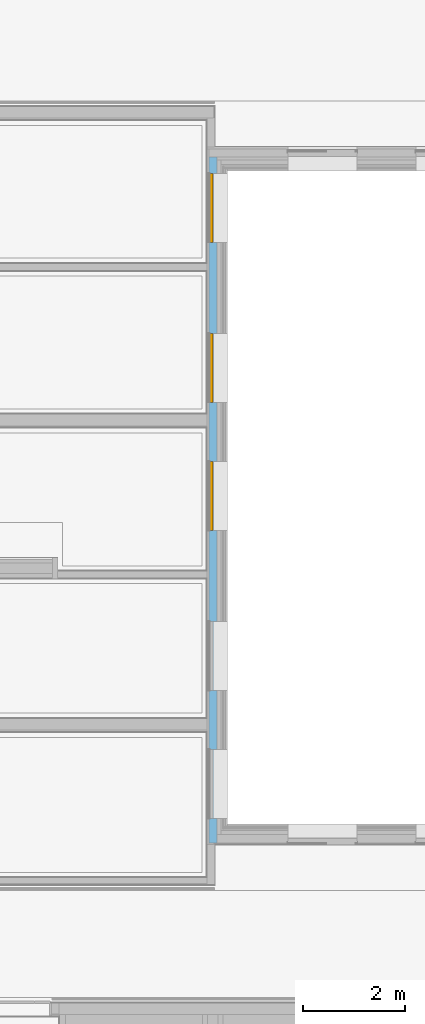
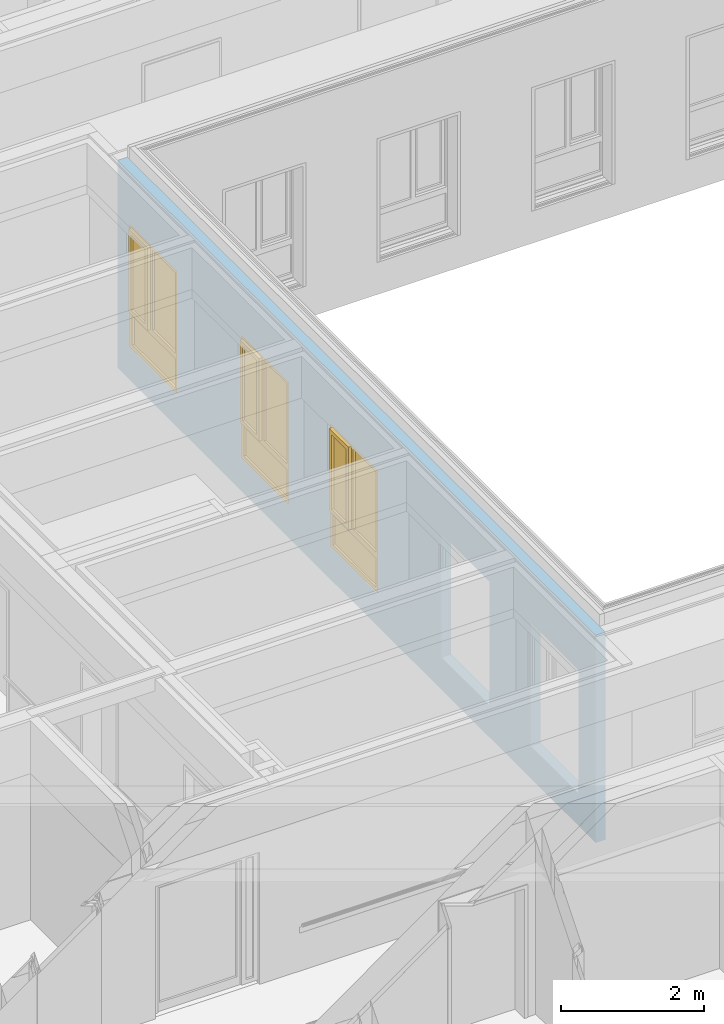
# One storey, part 69 of 222: 3 windows, 5 openings, plus 1 element that does not belong to this part.
"""IFC4 building model written with IfcOpenShell, lengths in metres."""

from ifc_helpers import new_model, entity, si_unit, converted_unit, derived_unit, frame, frame_2d, origin, origin_with_axes, place, context, subcontext, project, spatial, polyline, rectangle, outline, extrude, closed_shell, open_shell, surface_model, source, transform, mapped, material, element, fill, save


model = new_model("IFC4")

# Units and contexts
model_context = context("Model", 3, precision=1e-05, world=origin())
body_context = subcontext(model_context, "Body", "Model", "MODEL_VIEW")
ifc_project = project(units=[si_unit("LENGTHUNIT", "METRE"), si_unit("AREAUNIT", "SQUARE_METRE"), si_unit("VOLUMEUNIT", "CUBIC_METRE"), si_unit("MASSUNIT", "GRAM", prefix="KILO"), converted_unit("PLANEANGLEUNIT", "DEGREE", entity("IfcPlaneAngleMeasure", 0.0174532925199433), si_unit("PLANEANGLEUNIT", "RADIAN"), dimensions=[0, 0, 0, 0, 0, 0, 0]), derived_unit("THERMALTRANSMITTANCEUNIT", [(si_unit("POWERUNIT", "WATT"), 1), (si_unit("THERMODYNAMICTEMPERATUREUNIT", "KELVIN"), -1), (si_unit("LENGTHUNIT", "METRE"), -2)]), derived_unit("VOLUMETRICFLOWRATEUNIT", [(si_unit("LENGTHUNIT", "METRE"), 3), (converted_unit("TIMEUNIT", "hour", entity("IfcTimeMeasure", 3600.0), si_unit("TIMEUNIT", "SECOND"), dimensions=[0, 0, 1, 0, 0, 0, 0]), -1), (si_unit("LENGTHUNIT", "METRE"), -1)])], contexts=[model_context])

# Site, building, storey
site_placement = place(None, origin())
site = spatial("IfcSite", under=ifc_project, at=site_placement, Name="Psychiatrie Neubau Wunstorf", CompositionType="ELEMENT")
building_placement = place(site_placement, origin())
building = spatial("IfcBuilding", under=site, at=building_placement, Name="Neubau H2 Stationsgebäude", CompositionType="ELEMENT")
storey_placement = place(building_placement, frame((0.0, 0.0, 3.6)))
storey = spatial("IfcBuildingStorey", under=building, at=storey_placement, Name="H2 Ebene +1", CompositionType="ELEMENT", Elevation=3.6)

# Wall, openings, windows
ifc_material = material(Name="WA-DL")
wall_placement = place(storey_placement, frame((15.675, 20.8416528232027, 0.0), z_axis=(0.0, 0.0, 1.0), x_axis=(-2.71660179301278e-16, -1.0, 0.0)))
wall = element("IfcWall", 1, at=wall_placement, inside=storey, material=ifc_material, context=body_context, shape_type="SweptSolid", body=[
    extrude(rectangle(XDim=13.3916528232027, YDim=0.16, at=frame_2d((6.69582641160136, 0.08), x_axis=(1.0, 0.0))), origin_with_axes(), (0.0, 0.0, 1.0), 3.55),
])
opening_1_placement = place(wall_placement, frame((4.79165282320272, 0.159999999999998, 0.55), z_axis=(0.0, -1.0, 0.0), x_axis=(0.0, 0.0, 1.0)))
opening_1 = element("IfcOpeningElement", 2, at=opening_1_placement, cuts=wall, Name="Fensteröffnung", ObjectType="Opening", context=body_context, shape_type="SweptSolid", body=[
    extrude(outline(polyline([(2.115, 1.35), (2.115, 0.0), (0.0, 0.0), (0.0, 1.35), (2.115, 1.35)])), origin_with_axes(), (0.0, 0.0, 1.0), 0.16),
])
opening_2_placement = place(wall_placement, frame((7.29165282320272, 0.16, 0.55), z_axis=(0.0, -1.0, 0.0), x_axis=(0.0, 0.0, 1.0)))
opening_2 = element("IfcOpeningElement", 3, at=opening_2_placement, cuts=wall, Name="Fensteröffnung", ObjectType="Opening", context=body_context, shape_type="SweptSolid", body=[
    extrude(outline(polyline([(2.115, 1.35), (2.115, 0.0), (0.0, 0.0), (0.0, 1.35), (2.115, 1.35)])), origin_with_axes(), (0.0, 0.0, 1.0), 0.16),
])
opening_3_placement = place(wall_placement, frame((1.66665282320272, 0.159999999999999, 0.55), z_axis=(0.0, -1.0, 0.0), x_axis=(0.0, 0.0, 1.0)))
opening_3 = element("IfcOpeningElement", 4, at=opening_3_placement, cuts=wall, Name="Fensteröffnung", ObjectType="Opening", context=body_context, shape_type="SweptSolid", body=[
    extrude(outline(polyline([(2.115, 1.35), (2.115, 0.0), (0.0, 0.0), (0.0, 1.35), (2.115, 1.35)])), origin_with_axes(), (0.0, 0.0, 1.0), 0.16),
])
opening_4_placement = place(wall_placement, frame((12.9166528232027, 0.16, 0.55), z_axis=(0.0, -1.0, 0.0), x_axis=(0.0, 0.0, 1.0)))
element("IfcOpeningElement", 5, at=opening_4_placement, cuts=wall, Name="Fensteröffnung", ObjectType="Opening", context=body_context, shape_type="SweptSolid", body=[
    extrude(outline(polyline([(2.115, 1.35), (2.115, 0.0), (0.0, 0.0), (0.0, 1.35), (2.115, 1.35)])), origin_with_axes(), (0.0, 0.0, 1.0), 0.16),
])
opening_5_placement = place(wall_placement, frame((10.4166528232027, 0.160000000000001, 0.55), z_axis=(0.0, -1.0, 0.0), x_axis=(0.0, 0.0, 1.0)))
element("IfcOpeningElement", 6, at=opening_5_placement, cuts=wall, Name="Fensteröffnung", ObjectType="Opening", context=body_context, shape_type="SweptSolid", body=[
    extrude(outline(polyline([(2.115, 1.35), (2.115, 0.0), (0.0, 0.0), (0.0, 1.35), (2.115, 1.35)])), origin_with_axes(), (0.0, 0.0, 1.0), 0.16),
])
shared_shape_1 = source(origin_with_axes(), body_context, "Body", "SurfaceModel", [
    surface_model("IfcShellBasedSurfaceModel", [(0.0, 0.0, 2.115), (0.0700000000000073, 0.0, 2.115), (0.0700000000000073, 0.0, 0.0), (0.0, 0.0, 0.0), (0.0, 0.0699999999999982, 0.0), (0.0700000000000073, 0.0699999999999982, 0.0), (0.0700000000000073, 0.0699999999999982, 2.115), (0.0, 0.0699999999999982, 2.115)], [closed_shell([[[0, 1, 2, 3]], [[4, 5, 6, 7]], [[3, 4, 7, 0]], [[2, 5, 4, 3]], [[1, 6, 5, 2]], [[0, 7, 6, 1]]], orient=[[False], [False], [False], [False], [False], [False]])]),
    surface_model("IfcShellBasedSurfaceModel", [(1.28000000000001, 0.0, 2.115), (1.35000000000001, 0.0, 2.115), (1.35000000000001, 0.0, 0.0), (1.28000000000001, 0.0, 0.0), (1.28000000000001, 0.0699999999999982, 0.0), (1.35000000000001, 0.0699999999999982, 0.0), (1.35000000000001, 0.0699999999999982, 2.115), (1.28000000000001, 0.0699999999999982, 2.115)], [closed_shell([[[0, 1, 2, 3]], [[4, 5, 6, 7]], [[3, 4, 7, 0]], [[2, 5, 4, 3]], [[1, 6, 5, 2]], [[0, 7, 6, 1]]], orient=[[False], [False], [False], [False], [False], [False]])]),
    surface_model("IfcShellBasedSurfaceModel", [(0.0700000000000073, 0.0, 0.07), (1.28000000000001, 0.0, 0.07), (1.28000000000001, 0.0, 0.0), (0.0700000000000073, 0.0, 0.0), (0.0700000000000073, 0.0699999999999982, 0.0), (1.28000000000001, 0.0699999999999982, 0.0), (1.28000000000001, 0.0699999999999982, 0.07), (0.0700000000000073, 0.0699999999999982, 0.07)], [closed_shell([[[0, 1, 2, 3]], [[4, 5, 6, 7]], [[3, 4, 7, 0]], [[2, 5, 4, 3]], [[1, 6, 5, 2]], [[0, 7, 6, 1]]], orient=[[False], [False], [False], [False], [False], [False]])]),
    surface_model("IfcShellBasedSurfaceModel", [(0.0700000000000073, 0.0, 2.115), (1.28000000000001, 0.0, 2.115), (1.28000000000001, 0.0, 2.045), (0.0700000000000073, 0.0, 2.045), (0.0700000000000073, 0.0699999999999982, 2.045), (1.28000000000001, 0.0699999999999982, 2.045), (1.28000000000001, 0.0699999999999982, 2.115), (0.0700000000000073, 0.0699999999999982, 2.115)], [closed_shell([[[0, 1, 2, 3]], [[4, 5, 6, 7]], [[3, 4, 7, 0]], [[2, 5, 4, 3]], [[1, 6, 5, 2]], [[0, 7, 6, 1]]], orient=[[False], [False], [False], [False], [False], [False]])]),
    surface_model("IfcShellBasedSurfaceModel", [(0.0700000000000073, 0.0, 0.67), (1.28000000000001, 0.0, 0.67), (1.28000000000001, 0.0, 0.57), (0.0700000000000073, 0.0, 0.57), (0.0700000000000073, 0.0699999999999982, 0.57), (1.28000000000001, 0.0699999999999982, 0.57), (1.28000000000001, 0.0699999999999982, 0.67), (0.0700000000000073, 0.0699999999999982, 0.67)], [closed_shell([[[0, 1, 2, 3]], [[4, 5, 6, 7]], [[3, 4, 7, 0]], [[2, 5, 4, 3]], [[1, 6, 5, 2]], [[0, 7, 6, 1]]], orient=[[False], [False], [False], [False], [False], [False]])]),
    surface_model("IfcShellBasedSurfaceModel", [(0.0700000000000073, 0.0349999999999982, 0.07), (0.0700000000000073, 0.0349999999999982, 0.57), (1.28000000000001, 0.0349999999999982, 0.57), (1.28000000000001, 0.0349999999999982, 0.07)], [open_shell([[[0, 1, 2, 3]]], orient=[[False]])]),
    surface_model("IfcShellBasedSurfaceModel", [(0.565700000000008, 0.0, 2.045), (0.635700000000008, 0.0, 2.045), (0.635700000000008, 0.0, 0.67), (0.565700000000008, 0.0, 0.67), (0.565700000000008, 0.0699999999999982, 0.67), (0.635700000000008, 0.0699999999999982, 0.67), (0.635700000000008, 0.0699999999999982, 2.045), (0.565700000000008, 0.0699999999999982, 2.045)], [closed_shell([[[0, 1, 2, 3]], [[4, 5, 6, 7]], [[3, 4, 7, 0]], [[2, 5, 4, 3]], [[1, 6, 5, 2]], [[0, 7, 6, 1]]], orient=[[False], [False], [False], [False], [False], [False]])]),
    surface_model("IfcShellBasedSurfaceModel", [(0.0500000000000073, -0.0500000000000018, 2.065), (0.120000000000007, -0.0500000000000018, 2.065), (0.120000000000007, -0.0500000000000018, 0.65), (0.0500000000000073, -0.0500000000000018, 0.65), (0.0500000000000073, 0.0199999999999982, 0.65), (0.120000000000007, 0.0199999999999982, 0.65), (0.120000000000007, 0.0199999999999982, 2.065), (0.0500000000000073, 0.0199999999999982, 2.065)], [closed_shell([[[0, 1, 2, 3]], [[4, 5, 6, 7]], [[3, 4, 7, 0]], [[2, 5, 4, 3]], [[1, 6, 5, 2]], [[0, 7, 6, 1]]], orient=[[False], [False], [False], [False], [False], [False]])]),
    surface_model("IfcShellBasedSurfaceModel", [(0.515700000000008, -0.0500000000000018, 2.065), (0.585700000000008, -0.0500000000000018, 2.065), (0.585700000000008, -0.0500000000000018, 0.65), (0.515700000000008, -0.0500000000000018, 0.65), (0.515700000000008, 0.0199999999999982, 0.65), (0.585700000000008, 0.0199999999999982, 0.65), (0.585700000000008, 0.0199999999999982, 2.065), (0.515700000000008, 0.0199999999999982, 2.065)], [closed_shell([[[0, 1, 2, 3]], [[4, 5, 6, 7]], [[3, 4, 7, 0]], [[2, 5, 4, 3]], [[1, 6, 5, 2]], [[0, 7, 6, 1]]], orient=[[False], [False], [False], [False], [False], [False]])]),
    surface_model("IfcShellBasedSurfaceModel", [(0.120000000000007, -0.0500000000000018, 0.72), (0.515700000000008, -0.0500000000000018, 0.72), (0.515700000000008, -0.0500000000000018, 0.65), (0.120000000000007, -0.0500000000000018, 0.65), (0.120000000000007, 0.0199999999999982, 0.65), (0.515700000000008, 0.0199999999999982, 0.65), (0.515700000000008, 0.0199999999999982, 0.72), (0.120000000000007, 0.0199999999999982, 0.72)], [closed_shell([[[0, 1, 2, 3]], [[4, 5, 6, 7]], [[3, 4, 7, 0]], [[2, 5, 4, 3]], [[1, 6, 5, 2]], [[0, 7, 6, 1]]], orient=[[False], [False], [False], [False], [False], [False]])]),
    surface_model("IfcShellBasedSurfaceModel", [(0.120000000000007, -0.0500000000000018, 2.065), (0.515700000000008, -0.0500000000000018, 2.065), (0.515700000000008, -0.0500000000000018, 1.995), (0.120000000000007, -0.0500000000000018, 1.995), (0.120000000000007, 0.0199999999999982, 1.995), (0.515700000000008, 0.0199999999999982, 1.995), (0.515700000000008, 0.0199999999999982, 2.065), (0.120000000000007, 0.0199999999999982, 2.065)], [closed_shell([[[0, 1, 2, 3]], [[4, 5, 6, 7]], [[3, 4, 7, 0]], [[2, 5, 4, 3]], [[1, 6, 5, 2]], [[0, 7, 6, 1]]], orient=[[False], [False], [False], [False], [False], [False]])]),
    surface_model("IfcShellBasedSurfaceModel", [(0.635700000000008, 0.0349999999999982, 0.67), (0.635700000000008, 0.0349999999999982, 2.045), (1.28000000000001, 0.0349999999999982, 2.045), (1.28000000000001, 0.0349999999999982, 0.67)], [open_shell([[[0, 1, 2, 3]]], orient=[[False]])]),
    surface_model("IfcShellBasedSurfaceModel", [(0.120000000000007, -0.0150000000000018, 0.72), (0.120000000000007, -0.0150000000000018, 1.995), (0.515700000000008, -0.0150000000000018, 1.995), (0.515700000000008, -0.0150000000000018, 0.72)], [open_shell([[[0, 1, 2, 3]]], orient=[[False]])]),
])
window_1_placement = place(opening_1_placement, frame((0.0, 1.35, 0.146000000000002), z_axis=(1.0, 0.0, 0.0), x_axis=(0.0, -1.0, -2.71660179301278e-16)))
window_1 = element("IfcWindow", 7, at=window_1_placement, inside=storey, Name="Fenster", OverallHeight=2.115, OverallWidth=1.35, PartitioningType="USERDEFINED", PredefinedType="WINDOW", context=body_context, shape_type="MappedRepresentation", body=[
    mapped(shared_shape_1, transform((0.0, 0.0, 0.0), x_axis=(1.0, 0.0, 0.0), y_axis=(0.0, 1.0, 0.0), z_axis=(0.0, 0.0, 1.0), scale=1.0)),
])
fill(opening_1, window_1)
shared_shape_2 = source(origin_with_axes(), body_context, "Body", "SurfaceModel", [
    surface_model("IfcShellBasedSurfaceModel", [(0.0, 0.0, 2.115), (0.0700000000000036, 0.0, 2.115), (0.0700000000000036, 0.0, 0.0), (0.0, 0.0, 0.0), (0.0, 0.0699999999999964, 0.0), (0.0700000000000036, 0.0699999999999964, 0.0), (0.0700000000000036, 0.0699999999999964, 2.115), (0.0, 0.0699999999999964, 2.115)], [closed_shell([[[0, 1, 2, 3]], [[4, 5, 6, 7]], [[3, 4, 7, 0]], [[2, 5, 4, 3]], [[1, 6, 5, 2]], [[0, 7, 6, 1]]], orient=[[False], [False], [False], [False], [False], [False]])]),
    surface_model("IfcShellBasedSurfaceModel", [(1.28, 0.0, 2.115), (1.35, 0.0, 2.115), (1.35, 0.0, 0.0), (1.28, 0.0, 0.0), (1.28, 0.0699999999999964, 0.0), (1.35, 0.0699999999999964, 0.0), (1.35, 0.0699999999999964, 2.115), (1.28, 0.0699999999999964, 2.115)], [closed_shell([[[0, 1, 2, 3]], [[4, 5, 6, 7]], [[3, 4, 7, 0]], [[2, 5, 4, 3]], [[1, 6, 5, 2]], [[0, 7, 6, 1]]], orient=[[False], [False], [False], [False], [False], [False]])]),
    surface_model("IfcShellBasedSurfaceModel", [(0.0700000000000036, 0.0, 0.07), (1.28, 0.0, 0.07), (1.28, 0.0, 0.0), (0.0700000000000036, 0.0, 0.0), (0.0700000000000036, 0.0699999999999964, 0.0), (1.28, 0.0699999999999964, 0.0), (1.28, 0.0699999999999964, 0.07), (0.0700000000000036, 0.0699999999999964, 0.07)], [closed_shell([[[0, 1, 2, 3]], [[4, 5, 6, 7]], [[3, 4, 7, 0]], [[2, 5, 4, 3]], [[1, 6, 5, 2]], [[0, 7, 6, 1]]], orient=[[False], [False], [False], [False], [False], [False]])]),
    surface_model("IfcShellBasedSurfaceModel", [(0.0700000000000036, 0.0, 2.115), (1.28, 0.0, 2.115), (1.28, 0.0, 2.045), (0.0700000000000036, 0.0, 2.045), (0.0700000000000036, 0.0699999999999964, 2.045), (1.28, 0.0699999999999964, 2.045), (1.28, 0.0699999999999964, 2.115), (0.0700000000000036, 0.0699999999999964, 2.115)], [closed_shell([[[0, 1, 2, 3]], [[4, 5, 6, 7]], [[3, 4, 7, 0]], [[2, 5, 4, 3]], [[1, 6, 5, 2]], [[0, 7, 6, 1]]], orient=[[False], [False], [False], [False], [False], [False]])]),
    surface_model("IfcShellBasedSurfaceModel", [(0.0700000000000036, 0.0, 0.67), (1.28, 0.0, 0.67), (1.28, 0.0, 0.57), (0.0700000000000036, 0.0, 0.57), (0.0700000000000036, 0.0699999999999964, 0.57), (1.28, 0.0699999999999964, 0.57), (1.28, 0.0699999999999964, 0.67), (0.0700000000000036, 0.0699999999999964, 0.67)], [closed_shell([[[0, 1, 2, 3]], [[4, 5, 6, 7]], [[3, 4, 7, 0]], [[2, 5, 4, 3]], [[1, 6, 5, 2]], [[0, 7, 6, 1]]], orient=[[False], [False], [False], [False], [False], [False]])]),
    surface_model("IfcShellBasedSurfaceModel", [(0.0700000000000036, 0.0349999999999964, 0.07), (0.0700000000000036, 0.0349999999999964, 0.57), (1.28, 0.0349999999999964, 0.57), (1.28, 0.0349999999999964, 0.07)], [open_shell([[[0, 1, 2, 3]]], orient=[[False]])]),
    surface_model("IfcShellBasedSurfaceModel", [(0.565700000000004, 0.0, 2.045), (0.635700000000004, 0.0, 2.045), (0.635700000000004, 0.0, 0.67), (0.565700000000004, 0.0, 0.67), (0.565700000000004, 0.0699999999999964, 0.67), (0.635700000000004, 0.0699999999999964, 0.67), (0.635700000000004, 0.0699999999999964, 2.045), (0.565700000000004, 0.0699999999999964, 2.045)], [closed_shell([[[0, 1, 2, 3]], [[4, 5, 6, 7]], [[3, 4, 7, 0]], [[2, 5, 4, 3]], [[1, 6, 5, 2]], [[0, 7, 6, 1]]], orient=[[False], [False], [False], [False], [False], [False]])]),
    surface_model("IfcShellBasedSurfaceModel", [(0.0500000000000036, -0.0500000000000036, 2.065), (0.120000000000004, -0.0500000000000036, 2.065), (0.120000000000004, -0.0500000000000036, 0.65), (0.0500000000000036, -0.0500000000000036, 0.65), (0.0500000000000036, 0.0199999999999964, 0.65), (0.120000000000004, 0.0199999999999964, 0.65), (0.120000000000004, 0.0199999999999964, 2.065), (0.0500000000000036, 0.0199999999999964, 2.065)], [closed_shell([[[0, 1, 2, 3]], [[4, 5, 6, 7]], [[3, 4, 7, 0]], [[2, 5, 4, 3]], [[1, 6, 5, 2]], [[0, 7, 6, 1]]], orient=[[False], [False], [False], [False], [False], [False]])]),
    surface_model("IfcShellBasedSurfaceModel", [(0.515700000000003, -0.0500000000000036, 2.065), (0.585700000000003, -0.0500000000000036, 2.065), (0.585700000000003, -0.0500000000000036, 0.65), (0.515700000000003, -0.0500000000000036, 0.65), (0.515700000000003, 0.0199999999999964, 0.65), (0.585700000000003, 0.0199999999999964, 0.65), (0.585700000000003, 0.0199999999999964, 2.065), (0.515700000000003, 0.0199999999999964, 2.065)], [closed_shell([[[0, 1, 2, 3]], [[4, 5, 6, 7]], [[3, 4, 7, 0]], [[2, 5, 4, 3]], [[1, 6, 5, 2]], [[0, 7, 6, 1]]], orient=[[False], [False], [False], [False], [False], [False]])]),
    surface_model("IfcShellBasedSurfaceModel", [(0.120000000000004, -0.0500000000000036, 0.72), (0.515700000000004, -0.0500000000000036, 0.72), (0.515700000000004, -0.0500000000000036, 0.65), (0.120000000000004, -0.0500000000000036, 0.65), (0.120000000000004, 0.0199999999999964, 0.65), (0.515700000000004, 0.0199999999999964, 0.65), (0.515700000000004, 0.0199999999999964, 0.72), (0.120000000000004, 0.0199999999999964, 0.72)], [closed_shell([[[0, 1, 2, 3]], [[4, 5, 6, 7]], [[3, 4, 7, 0]], [[2, 5, 4, 3]], [[1, 6, 5, 2]], [[0, 7, 6, 1]]], orient=[[False], [False], [False], [False], [False], [False]])]),
    surface_model("IfcShellBasedSurfaceModel", [(0.120000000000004, -0.0500000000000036, 2.065), (0.515700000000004, -0.0500000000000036, 2.065), (0.515700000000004, -0.0500000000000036, 1.995), (0.120000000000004, -0.0500000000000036, 1.995), (0.120000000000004, 0.0199999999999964, 1.995), (0.515700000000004, 0.0199999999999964, 1.995), (0.515700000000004, 0.0199999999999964, 2.065), (0.120000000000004, 0.0199999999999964, 2.065)], [closed_shell([[[0, 1, 2, 3]], [[4, 5, 6, 7]], [[3, 4, 7, 0]], [[2, 5, 4, 3]], [[1, 6, 5, 2]], [[0, 7, 6, 1]]], orient=[[False], [False], [False], [False], [False], [False]])]),
    surface_model("IfcShellBasedSurfaceModel", [(0.635700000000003, 0.0349999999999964, 0.67), (0.635700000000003, 0.0349999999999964, 2.045), (1.28, 0.0349999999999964, 2.045), (1.28, 0.0349999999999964, 0.67)], [open_shell([[[0, 1, 2, 3]]], orient=[[False]])]),
    surface_model("IfcShellBasedSurfaceModel", [(0.120000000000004, -0.0150000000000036, 0.72), (0.120000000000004, -0.0150000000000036, 1.995), (0.515700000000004, -0.0150000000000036, 1.995), (0.515700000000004, -0.0150000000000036, 0.72)], [open_shell([[[0, 1, 2, 3]]], orient=[[False]])]),
])
window_2_placement = place(opening_2_placement, frame((0.0, 1.35, 0.146), z_axis=(1.0, 0.0, 0.0), x_axis=(0.0, -1.0, -2.71660179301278e-16)))
window_2 = element("IfcWindow", 8, at=window_2_placement, inside=storey, Name="Fenster", OverallHeight=2.115, OverallWidth=1.35, PartitioningType="USERDEFINED", PredefinedType="WINDOW", context=body_context, shape_type="MappedRepresentation", body=[
    mapped(shared_shape_2, transform((0.0, 0.0, 0.0), x_axis=(1.0, 0.0, 0.0), y_axis=(0.0, 1.0, 0.0), z_axis=(0.0, 0.0, 1.0), scale=1.0)),
])
fill(opening_2, window_2)
shared_shape_3 = source(origin_with_axes(), body_context, "Body", "SurfaceModel", [
    surface_model("IfcShellBasedSurfaceModel", [(0.0, 0.0, 2.115), (0.0700000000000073, 0.0, 2.115), (0.0700000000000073, 0.0, 0.0), (0.0, 0.0, 0.0), (0.0, 0.0699999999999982, 0.0), (0.0700000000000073, 0.0699999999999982, 0.0), (0.0700000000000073, 0.0699999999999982, 2.115), (0.0, 0.0699999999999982, 2.115)], [closed_shell([[[0, 1, 2, 3]], [[4, 5, 6, 7]], [[3, 4, 7, 0]], [[2, 5, 4, 3]], [[1, 6, 5, 2]], [[0, 7, 6, 1]]], orient=[[False], [False], [False], [False], [False], [False]])]),
    surface_model("IfcShellBasedSurfaceModel", [(1.28000000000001, 0.0, 2.115), (1.35000000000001, 0.0, 2.115), (1.35000000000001, 0.0, 0.0), (1.28000000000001, 0.0, 0.0), (1.28000000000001, 0.0699999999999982, 0.0), (1.35000000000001, 0.0699999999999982, 0.0), (1.35000000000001, 0.0699999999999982, 2.115), (1.28000000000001, 0.0699999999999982, 2.115)], [closed_shell([[[0, 1, 2, 3]], [[4, 5, 6, 7]], [[3, 4, 7, 0]], [[2, 5, 4, 3]], [[1, 6, 5, 2]], [[0, 7, 6, 1]]], orient=[[False], [False], [False], [False], [False], [False]])]),
    surface_model("IfcShellBasedSurfaceModel", [(0.0700000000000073, 0.0, 0.07), (1.28000000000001, 0.0, 0.07), (1.28000000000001, 0.0, 0.0), (0.0700000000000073, 0.0, 0.0), (0.0700000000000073, 0.0699999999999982, 0.0), (1.28000000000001, 0.0699999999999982, 0.0), (1.28000000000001, 0.0699999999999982, 0.07), (0.0700000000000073, 0.0699999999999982, 0.07)], [closed_shell([[[0, 1, 2, 3]], [[4, 5, 6, 7]], [[3, 4, 7, 0]], [[2, 5, 4, 3]], [[1, 6, 5, 2]], [[0, 7, 6, 1]]], orient=[[False], [False], [False], [False], [False], [False]])]),
    surface_model("IfcShellBasedSurfaceModel", [(0.0700000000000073, 0.0, 2.115), (1.28000000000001, 0.0, 2.115), (1.28000000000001, 0.0, 2.045), (0.0700000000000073, 0.0, 2.045), (0.0700000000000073, 0.0699999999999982, 2.045), (1.28000000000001, 0.0699999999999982, 2.045), (1.28000000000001, 0.0699999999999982, 2.115), (0.0700000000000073, 0.0699999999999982, 2.115)], [closed_shell([[[0, 1, 2, 3]], [[4, 5, 6, 7]], [[3, 4, 7, 0]], [[2, 5, 4, 3]], [[1, 6, 5, 2]], [[0, 7, 6, 1]]], orient=[[False], [False], [False], [False], [False], [False]])]),
    surface_model("IfcShellBasedSurfaceModel", [(0.0700000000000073, 0.0, 0.67), (1.28000000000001, 0.0, 0.67), (1.28000000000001, 0.0, 0.57), (0.0700000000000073, 0.0, 0.57), (0.0700000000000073, 0.0699999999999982, 0.57), (1.28000000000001, 0.0699999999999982, 0.57), (1.28000000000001, 0.0699999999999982, 0.67), (0.0700000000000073, 0.0699999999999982, 0.67)], [closed_shell([[[0, 1, 2, 3]], [[4, 5, 6, 7]], [[3, 4, 7, 0]], [[2, 5, 4, 3]], [[1, 6, 5, 2]], [[0, 7, 6, 1]]], orient=[[False], [False], [False], [False], [False], [False]])]),
    surface_model("IfcShellBasedSurfaceModel", [(0.0700000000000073, 0.0349999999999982, 0.07), (0.0700000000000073, 0.0349999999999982, 0.57), (1.28000000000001, 0.0349999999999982, 0.57), (1.28000000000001, 0.0349999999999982, 0.07)], [open_shell([[[0, 1, 2, 3]]], orient=[[False]])]),
    surface_model("IfcShellBasedSurfaceModel", [(0.565700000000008, 0.0, 2.045), (0.635700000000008, 0.0, 2.045), (0.635700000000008, 0.0, 0.67), (0.565700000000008, 0.0, 0.67), (0.565700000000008, 0.0699999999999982, 0.67), (0.635700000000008, 0.0699999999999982, 0.67), (0.635700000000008, 0.0699999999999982, 2.045), (0.565700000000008, 0.0699999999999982, 2.045)], [closed_shell([[[0, 1, 2, 3]], [[4, 5, 6, 7]], [[3, 4, 7, 0]], [[2, 5, 4, 3]], [[1, 6, 5, 2]], [[0, 7, 6, 1]]], orient=[[False], [False], [False], [False], [False], [False]])]),
    surface_model("IfcShellBasedSurfaceModel", [(0.0500000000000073, -0.0500000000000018, 2.065), (0.120000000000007, -0.0500000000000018, 2.065), (0.120000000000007, -0.0500000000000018, 0.65), (0.0500000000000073, -0.0500000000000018, 0.65), (0.0500000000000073, 0.0199999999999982, 0.65), (0.120000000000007, 0.0199999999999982, 0.65), (0.120000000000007, 0.0199999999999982, 2.065), (0.0500000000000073, 0.0199999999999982, 2.065)], [closed_shell([[[0, 1, 2, 3]], [[4, 5, 6, 7]], [[3, 4, 7, 0]], [[2, 5, 4, 3]], [[1, 6, 5, 2]], [[0, 7, 6, 1]]], orient=[[False], [False], [False], [False], [False], [False]])]),
    surface_model("IfcShellBasedSurfaceModel", [(0.515700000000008, -0.0500000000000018, 2.065), (0.585700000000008, -0.0500000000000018, 2.065), (0.585700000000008, -0.0500000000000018, 0.65), (0.515700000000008, -0.0500000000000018, 0.65), (0.515700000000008, 0.0199999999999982, 0.65), (0.585700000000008, 0.0199999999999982, 0.65), (0.585700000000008, 0.0199999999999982, 2.065), (0.515700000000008, 0.0199999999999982, 2.065)], [closed_shell([[[0, 1, 2, 3]], [[4, 5, 6, 7]], [[3, 4, 7, 0]], [[2, 5, 4, 3]], [[1, 6, 5, 2]], [[0, 7, 6, 1]]], orient=[[False], [False], [False], [False], [False], [False]])]),
    surface_model("IfcShellBasedSurfaceModel", [(0.120000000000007, -0.0500000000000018, 0.72), (0.515700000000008, -0.0500000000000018, 0.72), (0.515700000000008, -0.0500000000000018, 0.65), (0.120000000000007, -0.0500000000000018, 0.65), (0.120000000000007, 0.0199999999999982, 0.65), (0.515700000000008, 0.0199999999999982, 0.65), (0.515700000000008, 0.0199999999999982, 0.72), (0.120000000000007, 0.0199999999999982, 0.72)], [closed_shell([[[0, 1, 2, 3]], [[4, 5, 6, 7]], [[3, 4, 7, 0]], [[2, 5, 4, 3]], [[1, 6, 5, 2]], [[0, 7, 6, 1]]], orient=[[False], [False], [False], [False], [False], [False]])]),
    surface_model("IfcShellBasedSurfaceModel", [(0.120000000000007, -0.0500000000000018, 2.065), (0.515700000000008, -0.0500000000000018, 2.065), (0.515700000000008, -0.0500000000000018, 1.995), (0.120000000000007, -0.0500000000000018, 1.995), (0.120000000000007, 0.0199999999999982, 1.995), (0.515700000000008, 0.0199999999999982, 1.995), (0.515700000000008, 0.0199999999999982, 2.065), (0.120000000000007, 0.0199999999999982, 2.065)], [closed_shell([[[0, 1, 2, 3]], [[4, 5, 6, 7]], [[3, 4, 7, 0]], [[2, 5, 4, 3]], [[1, 6, 5, 2]], [[0, 7, 6, 1]]], orient=[[False], [False], [False], [False], [False], [False]])]),
    surface_model("IfcShellBasedSurfaceModel", [(0.635700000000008, 0.0349999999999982, 0.67), (0.635700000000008, 0.0349999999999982, 2.045), (1.28000000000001, 0.0349999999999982, 2.045), (1.28000000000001, 0.0349999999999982, 0.67)], [open_shell([[[0, 1, 2, 3]]], orient=[[False]])]),
    surface_model("IfcShellBasedSurfaceModel", [(0.120000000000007, -0.0150000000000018, 0.72), (0.120000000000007, -0.0150000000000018, 1.995), (0.515700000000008, -0.0150000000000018, 1.995), (0.515700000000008, -0.0150000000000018, 0.72)], [open_shell([[[0, 1, 2, 3]]], orient=[[False]])]),
])
window_3_placement = place(opening_3_placement, frame((0.0, 1.35, 0.146), z_axis=(1.0, 0.0, 0.0), x_axis=(0.0, -1.0, -2.71660179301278e-16)))
window_3 = element("IfcWindow", 9, at=window_3_placement, inside=storey, Name="Fenster", OverallHeight=2.115, OverallWidth=1.35, PartitioningType="USERDEFINED", PredefinedType="WINDOW", context=body_context, shape_type="MappedRepresentation", body=[
    mapped(shared_shape_3, transform((0.0, 0.0, 0.0), x_axis=(1.0, 0.0, 0.0), y_axis=(0.0, 1.0, 0.0), z_axis=(0.0, 0.0, 1.0), scale=1.0)),
])
fill(opening_3, window_3)

save(model, "model.ifc")
